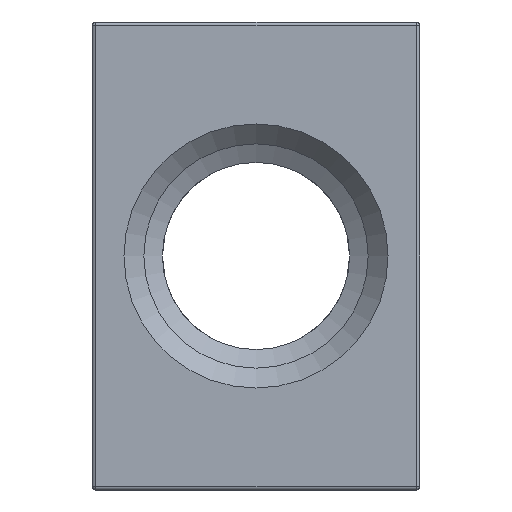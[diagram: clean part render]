
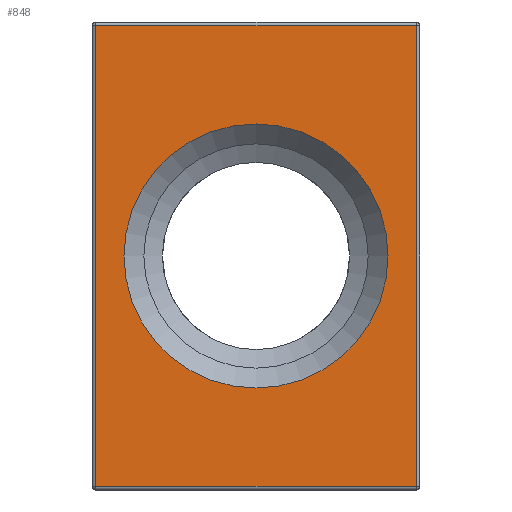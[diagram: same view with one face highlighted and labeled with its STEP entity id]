
A CAD part, left-side view. The second image highlights one B-rep face of the part: STEP entity #848.
In plain terms, the highlighted planar face has unit normal (-1, 0, 0).
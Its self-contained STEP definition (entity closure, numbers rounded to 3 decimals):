
#44=FACE_BOUND('',#266,.T.);
#52=PLANE('',#950);
#57=LINE('',#1385,#108);
#63=LINE('',#1408,#114);
#68=LINE('',#1415,#119);
#72=LINE('',#1421,#123);
#108=VECTOR('',#1083,10.);
#114=VECTOR('',#1111,10.);
#119=VECTOR('',#1120,10.);
#123=VECTOR('',#1128,10.);
#207=FACE_OUTER_BOUND('',#265,.T.);
#265=EDGE_LOOP('',(#652,#653,#654,#655));
#266=EDGE_LOOP('',(#656));
#329=CIRCLE('',#951,11.286);
#367=VERTEX_POINT('',#1347);
#378=VERTEX_POINT('',#1374);
#381=VERTEX_POINT('',#1381);
#385=VERTEX_POINT('',#1401);
#393=VERTEX_POINT('',#1445);
#456=EDGE_CURVE('',#367,#381,#57,.T.);
#468=EDGE_CURVE('',#385,#378,#63,.T.);
#473=EDGE_CURVE('',#381,#385,#68,.T.);
#477=EDGE_CURVE('',#378,#367,#72,.T.);
#489=EDGE_CURVE('',#393,#393,#329,.T.);
#652=ORIENTED_EDGE('',*,*,#468,.F.);
#653=ORIENTED_EDGE('',*,*,#473,.F.);
#654=ORIENTED_EDGE('',*,*,#456,.F.);
#655=ORIENTED_EDGE('',*,*,#477,.F.);
#656=ORIENTED_EDGE('',*,*,#489,.F.);
#848=ADVANCED_FACE('',(#207,#44),#52,.T.);
#950=AXIS2_PLACEMENT_3D('',#1444,#1157,#1158);
#951=AXIS2_PLACEMENT_3D('',#1446,#1159,#1160);
#1083=DIRECTION('',(0.,1.,0.));
#1111=DIRECTION('',(0.,-1.,0.));
#1120=DIRECTION('',(0.,0.,1.));
#1128=DIRECTION('',(0.,0.,-1.));
#1157=DIRECTION('center_axis',(-1.,0.,0.));
#1158=DIRECTION('ref_axis',(0.,0.,1.));
#1159=DIRECTION('center_axis',(-1.,0.,0.));
#1160=DIRECTION('ref_axis',(0.,1.,0.));
#1347=CARTESIAN_POINT('',(-50.,-13.7,-19.7));
#1374=CARTESIAN_POINT('',(-50.,-13.7,19.7));
#1381=CARTESIAN_POINT('',(-50.,13.7,-19.7));
#1385=CARTESIAN_POINT('',(-50.,0.,-19.7));
#1401=CARTESIAN_POINT('',(-50.,13.7,19.7));
#1408=CARTESIAN_POINT('',(-50.,0.,19.7));
#1415=CARTESIAN_POINT('',(-50.,13.7,-10.));
#1421=CARTESIAN_POINT('',(-50.,-13.7,-10.));
#1444=CARTESIAN_POINT('Origin',(-50.,0.,-20.));
#1445=CARTESIAN_POINT('',(-50.,-11.286,0.));
#1446=CARTESIAN_POINT('Origin',(-50.,0.,0.));
